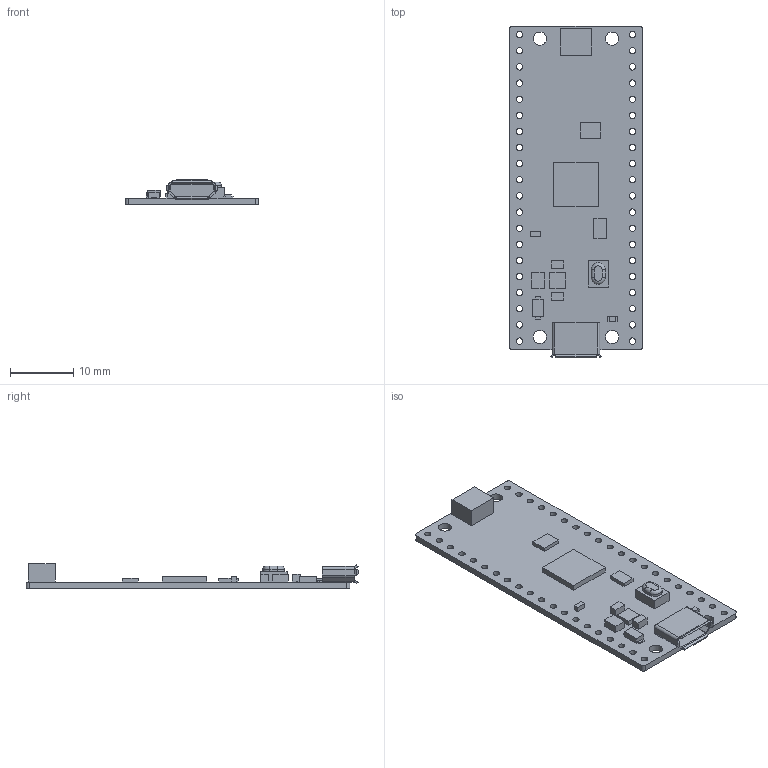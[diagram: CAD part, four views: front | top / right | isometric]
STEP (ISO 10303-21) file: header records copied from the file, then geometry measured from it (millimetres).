
FILE_DESCRIPTION(/* description */ ('STEP AP242 Edition 2','CAx-IF Rec.Pracs.---Representation and Presentation of Product Manufacturing Information (PMI)---4.0---2014-10-13','CAx-IF Rec.Pracs.---3D Tessellated Geometry---0.4---2014-09-14','2;1','CAx-IF Rec.Pracs.---User Defined Attributes---1.5---2016-08-15'),/* implementation_level */ '2;1');
FILE_NAME(/* name */ 'HIRO posing assembly - RaspberryPi_Pico_H_Module_KiCad',/* time_stamp */ '2026-11-04T05:15:24Z',/* author */ (''),/* organization */ (''),/* preprocessor_version */ 'ST-DEVELOPER v20',/* originating_system */ 'ONSHAPE BY PTC INC, 1.223',/* authorisation */ ' ');
FILE_SCHEMA (('AP242_MANAGED_MODEL_BASED_3D_ENGINEERING_MIM_LF { 1 0 10303 442 3 1 4 }'));
Length unit declared in the file: metre
Products named in the file (1): RaspberryPi_Pico_H_Module_KiCad
Bounding box: 21 x 52.3 x 3.9 mm (x, y, z)
Volume: 1188 mm3; surface area: 2741.7 mm2
Topology: 1 solids, 1 shells, 202 faces, 552 edges, 366 vertices
Faces by surface type: plane 124, cylinder 76, torus 2
Full cylindrical faces by diameter (mm): 1 x40, 2.1 x4
Entity records: 7776 total; most frequent: CARTESIAN_POINT 1077, DIRECTION 1068, ORIENTED_EDGE 1016, EDGE_CURVE 508, VERTEX_POINT 366, AXIS2_PLACEMENT_3D 357, LINE 354, VECTOR 354
